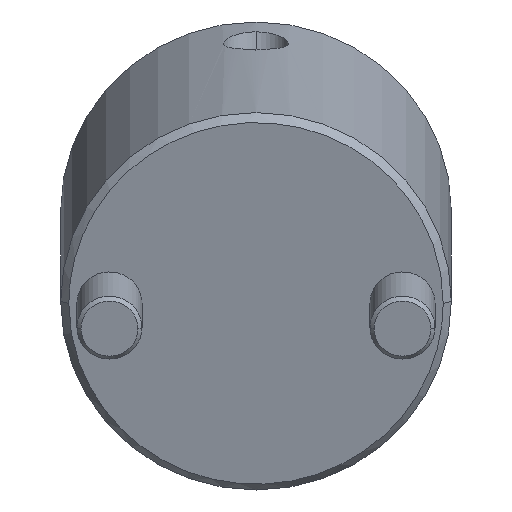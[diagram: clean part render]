
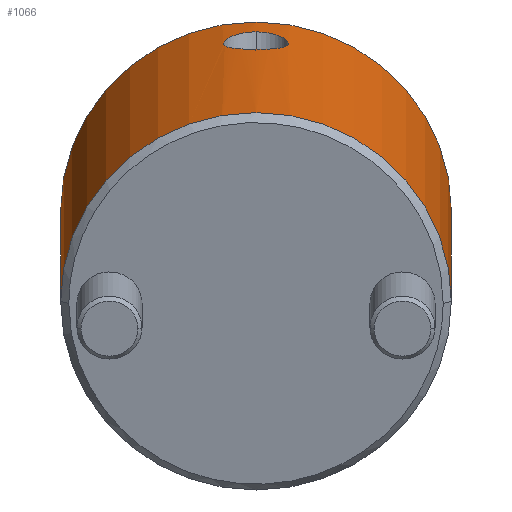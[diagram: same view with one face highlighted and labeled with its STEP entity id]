
A CAD part, front view. The second image highlights one B-rep face of the part: STEP entity #1066.
In plain terms, the highlighted cylindrical face has radius 24 mm (diameter 48 mm), a partial arc.
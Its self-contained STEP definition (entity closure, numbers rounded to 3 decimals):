
#808=CARTESIAN_POINT('Vertex',(0.,24.,1.)) ;
#811=CARTESIAN_POINT('Axis2P3D Location',(0.,0.,1.)) ;
#815=CARTESIAN_POINT('Vertex',(0.,-24.,1.)) ;
#967=CARTESIAN_POINT('Axis2P3D Location',(0.,0.,-2.25)) ;
#972=CARTESIAN_POINT('Line Origine',(0.,24.,-2.25)) ;
#976=CARTESIAN_POINT('Vertex',(0.,24.,44.)) ;
#979=CARTESIAN_POINT('Axis2P3D Location',(0.,0.,44.)) ;
#983=CARTESIAN_POINT('Vertex',(0.,-24.,44.)) ;
#986=CARTESIAN_POINT('Line Origine',(0.,-24.,-2.25)) ;
#998=CARTESIAN_POINT('Control Point',(24.,0.,39.312)) ;
#999=CARTESIAN_POINT('Control Point',(24.,0.381,39.312)) ;
#1000=CARTESIAN_POINT('Control Point',(23.992,0.757,39.263)) ;
#1001=CARTESIAN_POINT('Control Point',(23.978,1.125,39.167)) ;
#1002=CARTESIAN_POINT('Control Point',(23.946,1.656,38.956)) ;
#1003=CARTESIAN_POINT('Control Point',(23.905,2.142,38.651)) ;
#1004=CARTESIAN_POINT('Control Point',(23.89,2.302,38.536)) ;
#1005=CARTESIAN_POINT('Control Point',(23.859,2.608,38.288)) ;
#1006=CARTESIAN_POINT('Control Point',(23.826,2.886,38.002)) ;
#1007=CARTESIAN_POINT('Control Point',(23.81,3.019,37.847)) ;
#1008=CARTESIAN_POINT('Control Point',(23.778,3.265,37.525)) ;
#1009=CARTESIAN_POINT('Control Point',(23.748,3.472,37.174)) ;
#1010=CARTESIAN_POINT('Control Point',(23.734,3.565,36.993)) ;
#1011=CARTESIAN_POINT('Control Point',(23.709,3.731,36.621)) ;
#1012=CARTESIAN_POINT('Control Point',(23.689,3.851,36.232)) ;
#1013=CARTESIAN_POINT('Control Point',(23.681,3.901,36.035)) ;
#1014=CARTESIAN_POINT('Control Point',(23.668,3.976,35.638)) ;
#1015=CARTESIAN_POINT('Control Point',(23.664,4.004,35.232)) ;
#1016=CARTESIAN_POINT('Control Point',(23.663,4.007,35.033)) ;
#1017=CARTESIAN_POINT('Control Point',(23.669,3.974,34.33)) ;
#1018=CARTESIAN_POINT('Control Point',(23.698,3.799,33.653)) ;
#1019=CARTESIAN_POINT('Control Point',(23.73,3.604,33.199)) ;
#1020=CARTESIAN_POINT('Control Point',(23.799,3.136,32.447)) ;
#1021=CARTESIAN_POINT('Control Point',(23.874,2.484,31.853)) ;
#1022=CARTESIAN_POINT('Control Point',(23.906,2.162,31.627)) ;
#1023=CARTESIAN_POINT('Control Point',(23.955,1.553,31.301)) ;
#1024=CARTESIAN_POINT('Control Point',(23.986,0.889,31.112)) ;
#1025=CARTESIAN_POINT('Control Point',(23.995,0.595,31.057)) ;
#1026=CARTESIAN_POINT('Control Point',(24.,0.299,31.03)) ;
#1027=CARTESIAN_POINT('Control Point',(24.,0.,31.03)) ;
#1028=CARTESIAN_POINT('Vertex',(24.,0.,39.312)) ;
#1030=CARTESIAN_POINT('Vertex',(24.,0.,31.03)) ;
#1034=CARTESIAN_POINT('Control Point',(24.,0.,31.03)) ;
#1035=CARTESIAN_POINT('Control Point',(24.,-0.49,31.03)) ;
#1036=CARTESIAN_POINT('Control Point',(23.988,-0.973,31.103)) ;
#1037=CARTESIAN_POINT('Control Point',(23.963,-1.449,31.251)) ;
#1038=CARTESIAN_POINT('Control Point',(23.902,-2.245,31.642)) ;
#1039=CARTESIAN_POINT('Control Point',(23.826,-2.902,32.232)) ;
#1040=CARTESIAN_POINT('Control Point',(23.793,-3.16,32.529)) ;
#1041=CARTESIAN_POINT('Control Point',(23.731,-3.596,33.178)) ;
#1042=CARTESIAN_POINT('Control Point',(23.687,-3.866,33.919)) ;
#1043=CARTESIAN_POINT('Control Point',(23.671,-3.958,34.308)) ;
#1044=CARTESIAN_POINT('Control Point',(23.656,-4.048,35.113)) ;
#1045=CARTESIAN_POINT('Control Point',(23.673,-3.946,35.921)) ;
#1046=CARTESIAN_POINT('Control Point',(23.69,-3.849,36.316)) ;
#1047=CARTESIAN_POINT('Control Point',(23.724,-3.637,36.89)) ;
#1048=CARTESIAN_POINT('Control Point',(23.768,-3.329,37.417)) ;
#1049=CARTESIAN_POINT('Control Point',(23.784,-3.217,37.586)) ;
#1050=CARTESIAN_POINT('Control Point',(23.816,-2.973,37.91)) ;
#1051=CARTESIAN_POINT('Control Point',(23.849,-2.696,38.2)) ;
#1052=CARTESIAN_POINT('Control Point',(23.865,-2.55,38.334)) ;
#1053=CARTESIAN_POINT('Control Point',(23.896,-2.246,38.584)) ;
#1054=CARTESIAN_POINT('Control Point',(23.924,-1.917,38.793)) ;
#1055=CARTESIAN_POINT('Control Point',(23.937,-1.747,38.887)) ;
#1056=CARTESIAN_POINT('Control Point',(23.967,-1.315,39.092)) ;
#1057=CARTESIAN_POINT('Control Point',(23.987,-0.856,39.228)) ;
#1058=CARTESIAN_POINT('Control Point',(23.996,-0.575,39.284)) ;
#1059=CARTESIAN_POINT('Control Point',(24.,-0.289,39.312)) ;
#1060=CARTESIAN_POINT('Control Point',(24.,0.,39.312)) ;
#812=DIRECTION('Axis2P3D Direction',(0.,0.,1.)) ;
#968=DIRECTION('Axis2P3D Direction',(0.,-0.,1.)) ;
#969=DIRECTION('Axis2P3D XDirection',(0.,-1.,0.)) ;
#973=DIRECTION('Vector Direction',(0.,0.,1.)) ;
#980=DIRECTION('Axis2P3D Direction',(0.,-0.,1.)) ;
#987=DIRECTION('Vector Direction',(0.,0.,1.)) ;
#813=AXIS2_PLACEMENT_3D('Circle Axis2P3D',#811,#812,$) ;
#970=AXIS2_PLACEMENT_3D('Cylinder Axis2P3D',#967,#968,#969) ;
#981=AXIS2_PLACEMENT_3D('Circle Axis2P3D',#979,#980,$) ;
#992=ORIENTED_EDGE('',*,*,#978,.F.) ;
#993=ORIENTED_EDGE('',*,*,#985,.T.) ;
#994=ORIENTED_EDGE('',*,*,#990,.T.) ;
#995=ORIENTED_EDGE('',*,*,#817,.F.) ;
#1063=ORIENTED_EDGE('',*,*,#1032,.T.) ;
#1064=ORIENTED_EDGE('',*,*,#1061,.T.) ;
#1065=FACE_BOUND('',#1062,.T.) ;
#974=VECTOR('Line Direction',#973,1.) ;
#988=VECTOR('Line Direction',#987,1.) ;
#1066=ADVANCED_FACE('MANIFOLD_SOLID_BREP #1138',(#996,#1065),#971,.T.) ;
#997=B_SPLINE_CURVE_WITH_KNOTS('',5,(#998,#999,#1000,#1001,#1002,#1003,#1004,#1005,#1006,#1007,#1008,#1009,#1010,#1011,#1012,#1013,#1014,#1015,#1016,#1017,#1018,#1019,#1020,#1021,#1022,#1023,#1024,#1025,#1026,#1027),.UNSPECIFIED.,.F.,.U.,(6,3,3,3,3,3,3,3,3,6),(0.,2.718,4.117,5.519,6.933,8.345,9.737,13.219,16.005,18.128),.UNSPECIFIED.) ;
#1033=B_SPLINE_CURVE_WITH_KNOTS('',5,(#1034,#1035,#1036,#1037,#1038,#1039,#1040,#1041,#1042,#1043,#1044,#1045,#1046,#1047,#1048,#1049,#1050,#1051,#1052,#1053,#1054,#1055,#1056,#1057,#1058,#1059,#1060),.UNSPECIFIED.,.F.,.U.,(6,3,3,3,3,3,3,3,6),(0.,3.484,6.273,9.048,11.861,13.272,14.676,16.068,18.126),.UNSPECIFIED.) ;
#814=CIRCLE('generated circle',#813,24.) ;
#982=CIRCLE('generated circle',#981,24.) ;
#971=CYLINDRICAL_SURFACE('generated cylinder',#970,24.) ;
#817=EDGE_CURVE('',#809,#816,#814,.F.) ;
#978=EDGE_CURVE('',#977,#809,#975,.F.) ;
#985=EDGE_CURVE('',#977,#984,#982,.F.) ;
#990=EDGE_CURVE('',#984,#816,#989,.F.) ;
#1032=EDGE_CURVE('',#1029,#1031,#997,.T.) ;
#1061=EDGE_CURVE('',#1031,#1029,#1033,.T.) ;
#991=EDGE_LOOP('',(#992,#993,#994,#995)) ;
#1062=EDGE_LOOP('',(#1063,#1064)) ;
#996=FACE_OUTER_BOUND('',#991,.T.) ;
#975=LINE('Line',#972,#974) ;
#989=LINE('Line',#986,#988) ;
#809=VERTEX_POINT('',#808) ;
#816=VERTEX_POINT('',#815) ;
#977=VERTEX_POINT('',#976) ;
#984=VERTEX_POINT('',#983) ;
#1029=VERTEX_POINT('',#1028) ;
#1031=VERTEX_POINT('',#1030) ;
